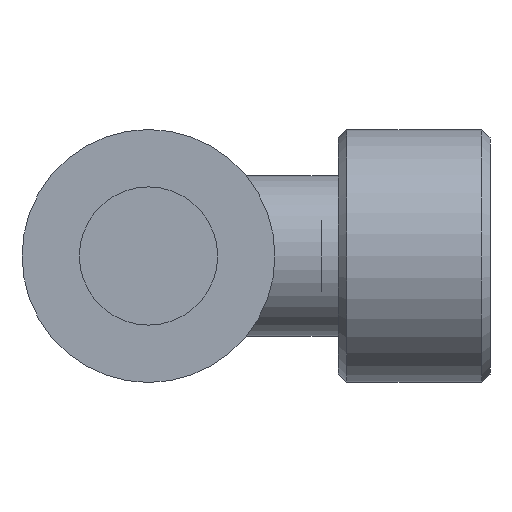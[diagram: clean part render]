
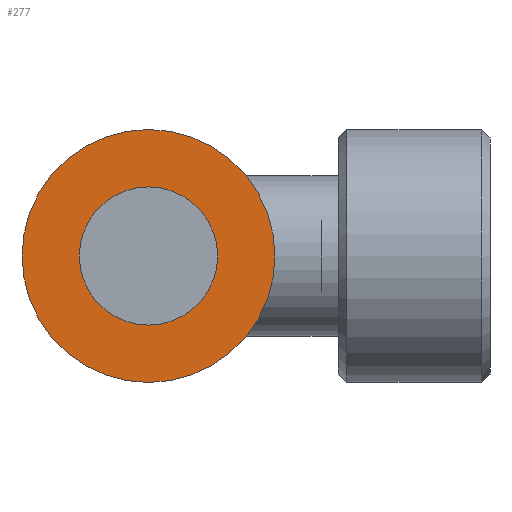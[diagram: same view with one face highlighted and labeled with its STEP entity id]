
A CAD part, front view. The second image highlights one B-rep face of the part: STEP entity #277.
In plain terms, the highlighted planar face has unit normal (0, -1, 0) as drawn and (-1, 0, 0) by its records, which use the part's own axes.
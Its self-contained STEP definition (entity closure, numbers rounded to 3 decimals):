
#277 = ADVANCED_FACE( '', ( #391, #392 ), #393, .F. );
#391 = FACE_OUTER_BOUND( '', #524, .T. );
#392 = FACE_BOUND( '', #525, .T. );
#393 = PLANE( '', #526 );
#524 = EDGE_LOOP( '', ( #724 ) );
#525 = EDGE_LOOP( '', ( #725 ) );
#526 = AXIS2_PLACEMENT_3D( '', #726, #727, #728 );
#724 = ORIENTED_EDGE( '', *, *, #812, .F. );
#725 = ORIENTED_EDGE( '', *, *, #811, .T. );
#726 = CARTESIAN_POINT( '', ( -2., 8.2, 0. ) );
#727 = DIRECTION( '', ( 1., 0., 0. ) );
#728 = DIRECTION( '', ( 0., 0., -1. ) );
#811 = EDGE_CURVE( '', #887, #887, #888, .T. );
#812 = EDGE_CURVE( '', #889, #889, #890, .T. );
#887 = VERTEX_POINT( '', #973 );
#888 = CIRCLE( '', #974, 8.2 );
#889 = VERTEX_POINT( '', #975 );
#890 = CIRCLE( '', #976, 15. );
#973 = CARTESIAN_POINT( '', ( -2., 0., -8.2 ) );
#974 = AXIS2_PLACEMENT_3D( '', #1092, #1093, #1094 );
#975 = CARTESIAN_POINT( '', ( -2., 0., -15. ) );
#976 = AXIS2_PLACEMENT_3D( '', #1095, #1096, #1097 );
#1092 = CARTESIAN_POINT( '', ( -2., 0., 0. ) );
#1093 = DIRECTION( '', ( 1., 0., 0. ) );
#1094 = DIRECTION( '', ( 0., 0., -1. ) );
#1095 = CARTESIAN_POINT( '', ( -2., 0., 0. ) );
#1096 = DIRECTION( '', ( 1., 0., 0. ) );
#1097 = DIRECTION( '', ( 0., 0., -1. ) );
